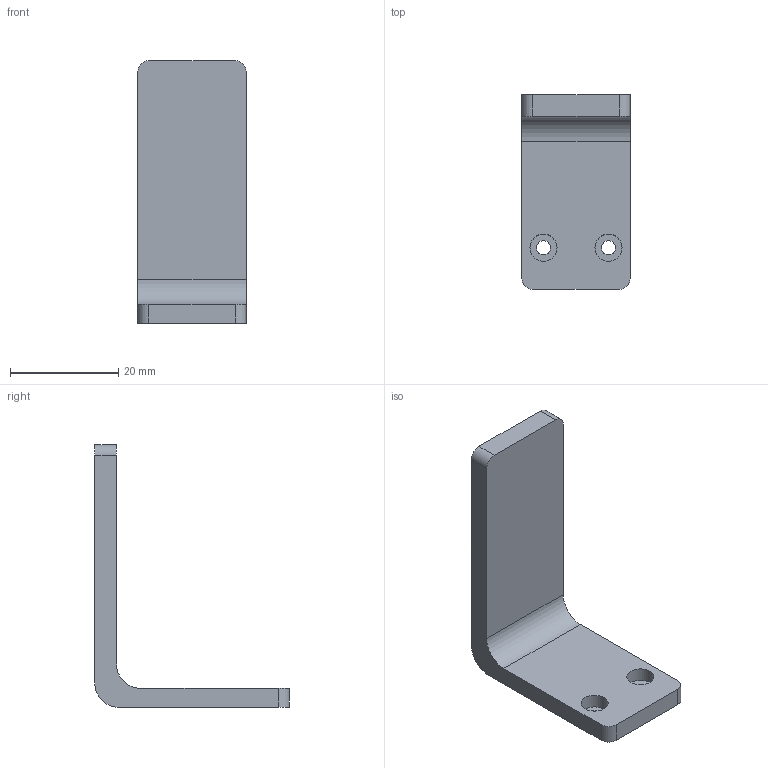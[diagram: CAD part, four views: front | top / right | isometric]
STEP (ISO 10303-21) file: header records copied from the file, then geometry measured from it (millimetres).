
FILE_DESCRIPTION(/* description */ (''),/* implementation_level */ '2;1');
FILE_NAME(/* name */ 'ORA Flat Jaw Med.step',/* time_stamp */ '2024-09-26T15:28:59-07:00',/* author */ (''),/* organization */ (''),/* preprocessor_version */ 'ST-DEVELOPER v20',/* originating_system */ 'Autodesk Translation Framework v13.20.0.188',/* authorisation */ '');
FILE_SCHEMA (('AUTOMOTIVE_DESIGN { 1 0 10303 214 3 1 1 }'));
Length unit declared in the file: millimetre
Products named in the file (1): Gripper Lite Alternate Jaw
Bounding box: 20 x 35.9 x 48.5 mm (x, y, z)
Volume: 5988.5 mm3; surface area: 3965.4 mm2
Topology: 1 solids, 1 shells, 20 faces, 48 edges, 32 vertices
Faces by surface type: cylinder 10, plane 10
Full cylindrical faces by diameter (mm): 2.6 x2, 5 x2
Entity records: 647 total; most frequent: DIRECTION 110, CARTESIAN_POINT 101, ORIENTED_EDGE 96, EDGE_CURVE 48, AXIS2_PLACEMENT_3D 41, VERTEX_POINT 32, LINE 28, VECTOR 28
